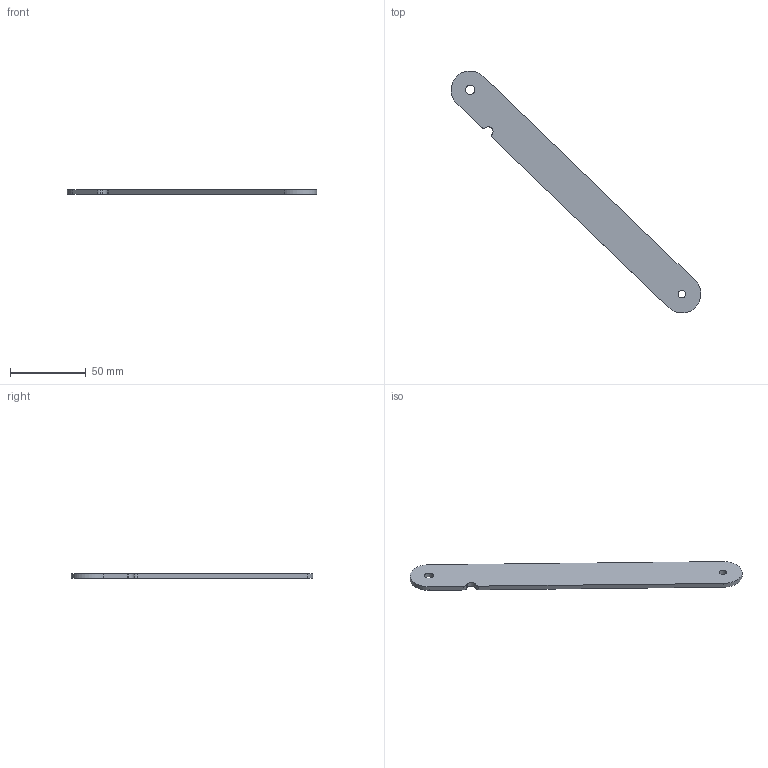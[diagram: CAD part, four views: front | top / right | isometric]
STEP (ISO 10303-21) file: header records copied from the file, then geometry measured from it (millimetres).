
FILE_DESCRIPTION((''),'2;1');
FILE_NAME('0000187150','2024-01-01T18:32:02',('Wyndorps'),(''),'CREO PARAMETRIC BY PTC INC, 2022484','CREO PARAMETRIC BY PTC INC, 2022484','');
FILE_SCHEMA(('CONFIG_CONTROL_DESIGN'));
Length unit declared in the file: millimetre
Products named in the file (1): 0000187150
Bounding box: 164.99 x 159.85 x 3 mm (x, y, z)
Volume: 15837.1 mm3; surface area: 12078.6 mm2
Topology: 1 solids, 1 shells, 15 faces, 39 edges, 26 vertices
Faces by surface type: cylinder 10, plane 5
Entity records: 519 total; most frequent: DIRECTION 89, CARTESIAN_POINT 80, ORIENTED_EDGE 78, EDGE_CURVE 39, AXIS2_PLACEMENT_3D 35, VERTEX_POINT 26, CIRCLE 20, VECTOR 19
